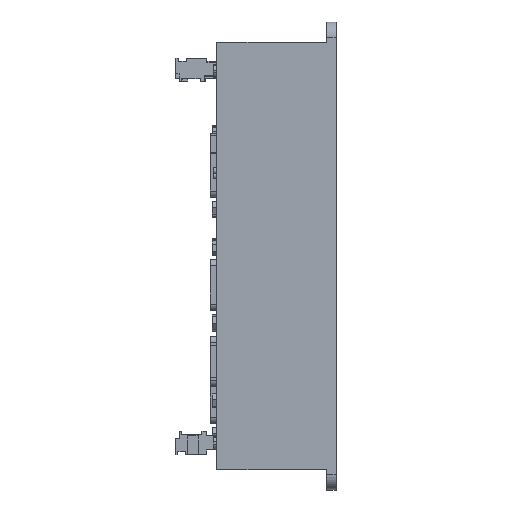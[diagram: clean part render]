
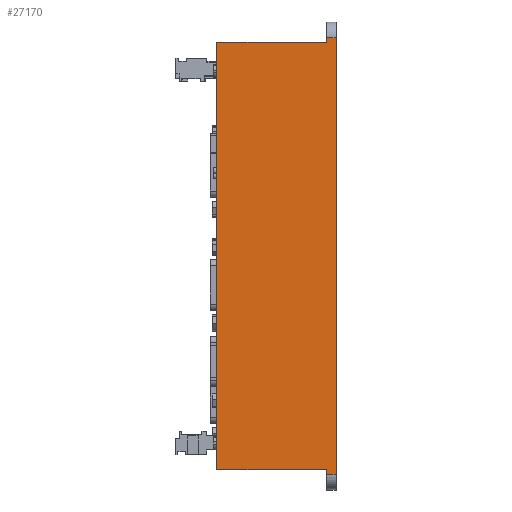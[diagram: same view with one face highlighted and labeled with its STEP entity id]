
A CAD part, left-side view. The second image highlights one B-rep face of the part: STEP entity #27170.
In plain terms, the highlighted planar face has unit normal (-1, 0, 0).
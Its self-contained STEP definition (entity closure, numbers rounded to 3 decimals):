
#793 = VERTEX_POINT ( 'NONE', #46124 ) ;
#799 = ORIENTED_EDGE ( 'NONE', *, *, #50601, .F. ) ;
#4214 = DIRECTION ( 'NONE',  ( 1., 0., 0. ) ) ;
#5305 = EDGE_CURVE ( 'NONE', #58714, #9882, #61166, .T. ) ;
#5344 = CARTESIAN_POINT ( 'NONE',  ( -120.5, 3., -68. ) ) ;
#5868 = CARTESIAN_POINT ( 'NONE',  ( -120.5, 3., -69.5 ) ) ;
#7357 = EDGE_LOOP ( 'NONE', ( #65007, #57689, #23749, #53021, #799, #19463, #54323, #37352 ) ) ;
#8337 = CARTESIAN_POINT ( 'NONE',  ( -120.5, 3., -74.5 ) ) ;
#9882 = VERTEX_POINT ( 'NONE', #5344 ) ;
#10050 = LINE ( 'NONE', #56868, #22268 ) ;
#11502 = LINE ( 'NONE', #25675, #39462 ) ;
#12941 = LINE ( 'NONE', #35388, #29885 ) ;
#13822 = DIRECTION ( 'NONE',  ( 0., 0., 1. ) ) ;
#14403 = CARTESIAN_POINT ( 'NONE',  ( -120.5, 38., 68. ) ) ;
#15313 = DIRECTION ( 'NONE',  ( 0., 0., -1. ) ) ;
#16112 = CARTESIAN_POINT ( 'NONE',  ( -120.5, 0., 69.5 ) ) ;
#18789 = CARTESIAN_POINT ( 'NONE',  ( -120.5, 38., -68. ) ) ;
#19463 = ORIENTED_EDGE ( 'NONE', *, *, #55555, .F. ) ;
#19593 = EDGE_CURVE ( 'NONE', #27280, #9882, #33030, .T. ) ;
#20841 = DIRECTION ( 'NONE',  ( 0., 1., 0. ) ) ;
#21298 = DIRECTION ( 'NONE',  ( 0., -1., 0. ) ) ;
#22268 = VECTOR ( 'NONE', #20841, 1000. ) ;
#22279 = LINE ( 'NONE', #53926, #66329 ) ;
#22881 = VECTOR ( 'NONE', #66267, 1000. ) ;
#23749 = ORIENTED_EDGE ( 'NONE', *, *, #48166, .T. ) ;
#25675 = CARTESIAN_POINT ( 'NONE',  ( -120.5, 3., -69.5 ) ) ;
#27170 = ADVANCED_FACE ( 'NONE', ( #40914 ), #60496, .F. ) ;
#27280 = VERTEX_POINT ( 'NONE', #5868 ) ;
#28190 = AXIS2_PLACEMENT_3D ( 'NONE', #66530, #4214, #15313 ) ;
#29885 = VECTOR ( 'NONE', #59441, 1000. ) ;
#29904 = LINE ( 'NONE', #14403, #22881 ) ;
#30169 = CARTESIAN_POINT ( 'NONE',  ( -120.5, 38., -68. ) ) ;
#33030 = LINE ( 'NONE', #53574, #44063 ) ;
#33692 = CARTESIAN_POINT ( 'NONE',  ( -120.5, 0., -69.5 ) ) ;
#34196 = CARTESIAN_POINT ( 'NONE',  ( -120.5, 38., 68. ) ) ;
#35388 = CARTESIAN_POINT ( 'NONE',  ( -120.5, 0., -74.5 ) ) ;
#37352 = ORIENTED_EDGE ( 'NONE', *, *, #5305, .T. ) ;
#37499 = VERTEX_POINT ( 'NONE', #34196 ) ;
#37795 = VERTEX_POINT ( 'NONE', #33692 ) ;
#38067 = VERTEX_POINT ( 'NONE', #16112 ) ;
#39462 = VECTOR ( 'NONE', #21298, 1000. ) ;
#40914 = FACE_OUTER_BOUND ( 'NONE', #7357, .T. ) ;
#42063 = VECTOR ( 'NONE', #50385, 1000. ) ;
#44032 = LINE ( 'NONE', #8337, #54693 ) ;
#44063 = VECTOR ( 'NONE', #13822, 1000. ) ;
#45403 = EDGE_CURVE ( 'NONE', #27280, #37795, #11502, .T. ) ;
#45612 = EDGE_CURVE ( 'NONE', #58714, #37499, #22279, .T. ) ;
#46124 = CARTESIAN_POINT ( 'NONE',  ( -120.5, 3., 69.5 ) ) ;
#48166 = EDGE_CURVE ( 'NONE', #37795, #38067, #12941, .T. ) ;
#49168 = EDGE_CURVE ( 'NONE', #38067, #793, #10050, .T. ) ;
#50100 = DIRECTION ( 'NONE',  ( 0., 0., 1. ) ) ;
#50385 = DIRECTION ( 'NONE',  ( 0., -1., 0. ) ) ;
#50601 = EDGE_CURVE ( 'NONE', #56447, #793, #44032, .T. ) ;
#53021 = ORIENTED_EDGE ( 'NONE', *, *, #49168, .T. ) ;
#53574 = CARTESIAN_POINT ( 'NONE',  ( -120.5, 3., -74.5 ) ) ;
#53926 = CARTESIAN_POINT ( 'NONE',  ( -120.5, 38., -68. ) ) ;
#54323 = ORIENTED_EDGE ( 'NONE', *, *, #45612, .F. ) ;
#54693 = VECTOR ( 'NONE', #50100, 1000. ) ;
#55555 = EDGE_CURVE ( 'NONE', #37499, #56447, #29904, .T. ) ;
#56447 = VERTEX_POINT ( 'NONE', #57018 ) ;
#56868 = CARTESIAN_POINT ( 'NONE',  ( -120.5, 3., 69.5 ) ) ;
#57018 = CARTESIAN_POINT ( 'NONE',  ( -120.5, 3., 68. ) ) ;
#57689 = ORIENTED_EDGE ( 'NONE', *, *, #45403, .T. ) ;
#58714 = VERTEX_POINT ( 'NONE', #18789 ) ;
#59329 = DIRECTION ( 'NONE',  ( 0., 0., 1. ) ) ;
#59441 = DIRECTION ( 'NONE',  ( 0., 0., 1. ) ) ;
#60496 = PLANE ( 'NONE',  #28190 ) ;
#61166 = LINE ( 'NONE', #30169, #42063 ) ;
#65007 = ORIENTED_EDGE ( 'NONE', *, *, #19593, .F. ) ;
#66267 = DIRECTION ( 'NONE',  ( 0., -1., 0. ) ) ;
#66329 = VECTOR ( 'NONE', #59329, 1000. ) ;
#66530 = CARTESIAN_POINT ( 'NONE',  ( -120.5, 3., -74.5 ) ) ;
